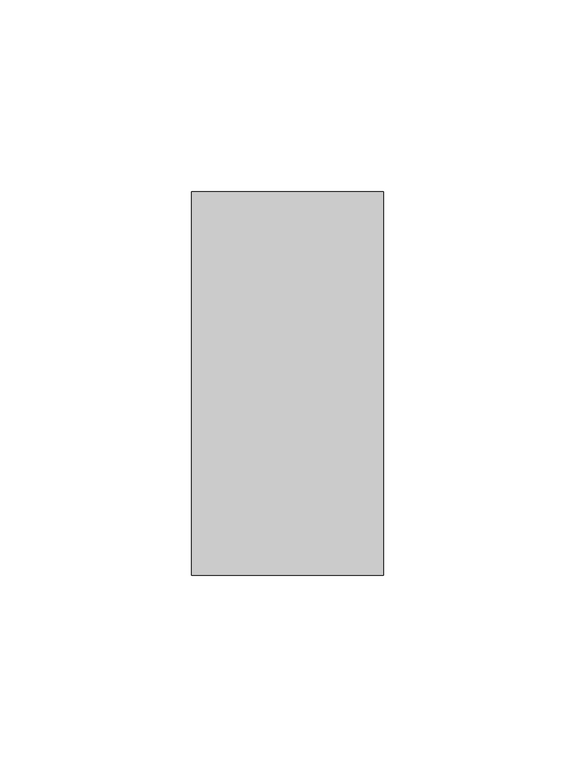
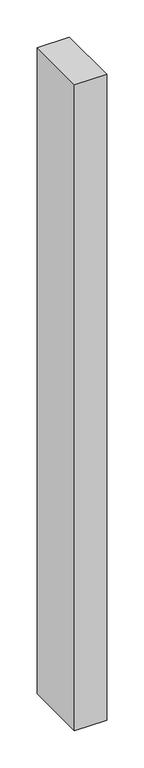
"""IFC4 building model written with IfcOpenShell, lengths in millimetres: member geometry, Прямоугольный импост : 50х100."""

import ifcopenshell
import ifcopenshell.guid

model = None  # the IFC model being written
_history = None  # IfcOwnerHistory: only IFC2X3 demands one
_inside = {}  # id of a spatial element -> (the spatial element, [elements in it])
_under = {}  # id of a project, library or spatial element -> (it, [spatial elements below it])
_declared = {}  # id of a project -> (the project, [libraries it declares])
_typed = {}  # id of a type object -> (the type object, [elements of that type])
_made_of = {}  # id of a material, layer set ... -> (it, [elements and type objects made of it])


def new_model(schema):
    """Start an empty IFC model of exactly this schema.

    Asked for "IFC4X3", IfcOpenShell would pick the latest addendum, in which some entities
    have other attributes; the version numbers below select the first issue.
    IFC2X3 requires an IfcOwnerHistory on every rooted entity: one is made here for all.
    """
    global model, _history
    if schema == "IFC4X3":
        model = ifcopenshell.file(schema_version=(4, 3, 0, 0))
    else:
        model = ifcopenshell.file(schema=schema)
    _inside.clear()
    _under.clear()
    _declared.clear()
    _typed.clear()
    _made_of.clear()
    _history = None
    if model.schema == "IFC2X3":
        org = make("IfcOrganization", Name="unknown")
        user = make(
            "IfcPersonAndOrganization",
            ThePerson=make("IfcPerson", FamilyName="unknown"),
            TheOrganization=org,
        )
        app = make(
            "IfcApplication",
            ApplicationDeveloper=org,
            Version="unknown",
            ApplicationFullName="unknown",
            ApplicationIdentifier="unknown",
        )
        _history = make(
            "IfcOwnerHistory",
            OwningUser=user,
            OwningApplication=app,
            ChangeAction="ADDED",
            CreationDate=0,
        )
    return model


def make(cls, **values):
    """One entity of the class cls with the attributes given. An attribute that is None is left unset."""
    return model.create_entity(
        cls, **{name: value for name, value in values.items() if value is not None}
    )


def rooted(cls, **values):
    """An entity with a GlobalId (a new one), such as an element, a storey or a relation."""
    return make(cls, GlobalId=ifcopenshell.guid.new(), OwnerHistory=_history, **values)


def si_unit(unit_type, name, prefix=None):
    """IfcSIUnit, for example si_unit("LENGTHUNIT", "METRE", prefix="MILLI")."""
    return make("IfcSIUnit", UnitType=unit_type, Prefix=prefix, Name=name)


def assignment(units):
    """IfcUnitAssignment: the units of a project."""
    return None if units is None else make("IfcUnitAssignment", Units=units)


def point(xyz):
    """IfcCartesianPoint."""
    return None if xyz is None else make("IfcCartesianPoint", Coordinates=xyz)


def direction(xyz):
    """IfcDirection."""
    return None if xyz is None else make("IfcDirection", DirectionRatios=xyz)


def frame(location, z_axis=None, x_axis=None):
    """IfcAxis2Placement3D, a coordinate frame: its origin and axes. An axis left out is left unset."""
    return make(
        "IfcAxis2Placement3D",
        Location=point(location),
        Axis=direction(z_axis),
        RefDirection=direction(x_axis),
    )


def origin():
    """The frame at (0, 0, 0) with its axes left unset."""
    return frame((0.0, 0.0, 0.0))


def place(relative_to, where):
    """IfcLocalPlacement: puts the frame where relative to a parent placement (None: the world)."""
    return make(
        "IfcLocalPlacement", PlacementRelTo=relative_to, RelativePlacement=where
    )


def context(
    kind, dimensions, precision=None, world=None, true_north=None, identifier=None
):
    """IfcGeometricRepresentationContext, for example the 3D "Model" context."""
    return make(
        "IfcGeometricRepresentationContext",
        ContextIdentifier=identifier,
        ContextType=kind,
        CoordinateSpaceDimension=dimensions,
        Precision=precision,
        WorldCoordinateSystem=world,
        TrueNorth=true_north,
    )


def project(units=None, contexts=None):
    """IfcProject with its units and contexts."""
    return rooted(
        "IfcProject",
        Name="project",
        RepresentationContexts=contexts,
        UnitsInContext=assignment(units),
    )


def spatial(cls, under=None, at=None, **own):
    """A site, building, storey or space (cls), placed at a placement, below another one or the project."""
    s = rooted(cls, ObjectPlacement=at, **own)
    if under is not None:
        _under.setdefault(under.id(), (under, []))[1].append(s)
    return s


def polyline(points):
    """IfcPolyline through the points."""
    return make("IfcPolyline", Points=[point(p) for p in points])


def outline(outer, holes=None, kind="AREA"):
    """IfcArbitraryClosedProfileDef: a profile drawn as a closed curve; with holes, ...WithVoids."""
    if holes is None:
        return make("IfcArbitraryClosedProfileDef", ProfileType=kind, OuterCurve=outer)
    return make(
        "IfcArbitraryProfileDefWithVoids",
        ProfileType=kind,
        OuterCurve=outer,
        InnerCurves=holes,
    )


def extrude(swept, where, along, depth):
    """IfcExtrudedAreaSolid: the profile swept, set in the frame where, extruded along a direction by depth."""
    return make(
        "IfcExtrudedAreaSolid",
        SweptArea=swept,
        Position=where,
        ExtrudedDirection=direction(along),
        Depth=depth,
    )


def shape(context_of_items, identifier, shape_type, items):
    """IfcShapeRepresentation: the items that make up one representation, for example the "Body"."""
    return make(
        "IfcShapeRepresentation",
        ContextOfItems=context_of_items,
        RepresentationIdentifier=identifier,
        RepresentationType=shape_type,
        Items=items,
    )


def source(mapping_origin, context_of_items, identifier, shape_type, items):
    """IfcRepresentationMap: a shape defined once, which mapped items show again and again."""
    return make(
        "IfcRepresentationMap",
        MappingOrigin=mapping_origin,
        MappedRepresentation=shape(context_of_items, identifier, shape_type, items),
    )


def transform(
    local_origin,
    x_axis=None,
    y_axis=None,
    z_axis=None,
    scale=None,
    scale2=None,
    scale3=None,
    uniform=True,
):
    """IfcCartesianTransformationOperator3D, or its non-uniform kind. x_axis, y_axis, z_axis: its Axis1, 2, 3."""
    if uniform:
        return make(
            "IfcCartesianTransformationOperator3D",
            Axis1=direction(x_axis),
            Axis2=direction(y_axis),
            LocalOrigin=point(local_origin),
            Scale=scale,
            Axis3=direction(z_axis),
        )
    return make(
        "IfcCartesianTransformationOperator3DnonUniform",
        Axis1=direction(x_axis),
        Axis2=direction(y_axis),
        LocalOrigin=point(local_origin),
        Scale=scale,
        Axis3=direction(z_axis),
        Scale2=scale2,
        Scale3=scale3,
    )


def mapped(mapping_source, mapping_target):
    """IfcMappedItem: shows the shape of a source again, moved by a transform."""
    return make(
        "IfcMappedItem", MappingSource=mapping_source, MappingTarget=mapping_target
    )


def made_of(thing, what):
    """Note that an element or type object is made of a material, layer set ...; save() writes the relation."""
    if what is not None:
        _made_of.setdefault(what.id(), (what, []))[1].append(thing)
    return thing


def element(
    cls,
    number,
    at=None,
    inside=None,
    cuts=None,
    type_object=None,
    material=None,
    context=None,
    identifier="Body",
    shape_type=None,
    held_by="IfcProductDefinitionShape",
    body=None,
    shapes=None,
    **own,
):
    """One element of the class cls, such as IfcWall. Its Tag is "e" and its number.

    at: its placement. inside: the storey or other place that contains it. cuts: it is an
    opening in that element (IfcRelVoidsElement). A single representation is given by context,
    identifier, shape_type and body (its items); several are given by shapes. held_by: the class
    of the entity that holds the representations. save() writes the other relations.
    """
    e = rooted(cls, Tag="e%d" % number, ObjectPlacement=at, **own)
    if body is not None:
        shapes = [shape(context, identifier, shape_type, body)]
    if shapes is not None:
        e.Representation = make(held_by, Representations=shapes)
    if inside is not None:
        _inside.setdefault(inside.id(), (inside, []))[1].append(e)
    if cuts is not None:
        rooted(
            "IfcRelVoidsElement", RelatingBuildingElement=cuts, RelatedOpeningElement=e
        )
    if type_object is not None:
        _typed.setdefault(type_object.id(), (type_object, []))[1].append(e)
    return made_of(e, material)


def aggregate(whole, parts):
    """IfcRelAggregates: a whole, such as a stair, and the parts it consists of."""
    return rooted("IfcRelAggregates", RelatingObject=whole, RelatedObjects=parts)


def save(model, path):
    """Write the relations noted so far, then the file.

    IfcRelAggregates (storeys below a building ...), IfcRelContainedInSpatialStructure (elements
    in a storey), IfcRelDefinesByType, IfcRelAssociatesMaterial and IfcRelDeclares: one each for
    every whole, place, type object, material and project.
    """
    for whole, parts in _under.values():
        aggregate(whole, parts)
    for where, things in _inside.values():
        rooted(
            "IfcRelContainedInSpatialStructure",
            RelatedElements=things,
            RelatingStructure=where,
        )
    for kind, things in _typed.values():
        rooted("IfcRelDefinesByType", RelatedObjects=things, RelatingType=kind)
    for what, things in _made_of.values():
        rooted("IfcRelAssociatesMaterial", RelatedObjects=things, RelatingMaterial=what)
    for by, libraries in _declared.values():
        rooted("IfcRelDeclares", RelatingContext=by, RelatedDefinitions=libraries)
    model.write(path)


def member_260a92d2(model_context):
    return source(origin(), model_context, "Body", "SweptSolid", [
        extrude(outline(polyline([(25.0, 50.0), (25.0, -50.0), (-25.0, -50.0), (-25.0, 50.0), (25.0, 50.0)])), frame((0.0, 0.0, -1060.0), z_axis=(0.0, 0.0, 1.0), x_axis=(1.0, 0.0, 0.0)), (0.0, 0.0, 1.0), 1060.0),
    ])


if __name__ == "__main__":
    model = new_model("IFC4")
    model_context = context("Model", 3, world=origin())
    ifc_project = project(units=[si_unit("LENGTHUNIT", "METRE", prefix="MILLI")], contexts=[model_context])
    site = spatial("IfcSite", under=ifc_project)
    building = spatial("IfcBuilding", under=site)
    placement = place(None, origin())
    member_shape = member_260a92d2(model_context)
    element("IfcMember", 1, ObjectType="Прямоугольный импост : 50х100", at=placement, inside=building, context=model_context, shape_type="MappedRepresentation", body=[
        mapped(member_shape, transform((0.0, 0.0, 0.0), x_axis=(1.0, 0.0, 0.0), y_axis=(0.0, 1.0, 0.0), z_axis=(0.0, 0.0, 1.0))),
    ])
    save(model, "model.ifc")
